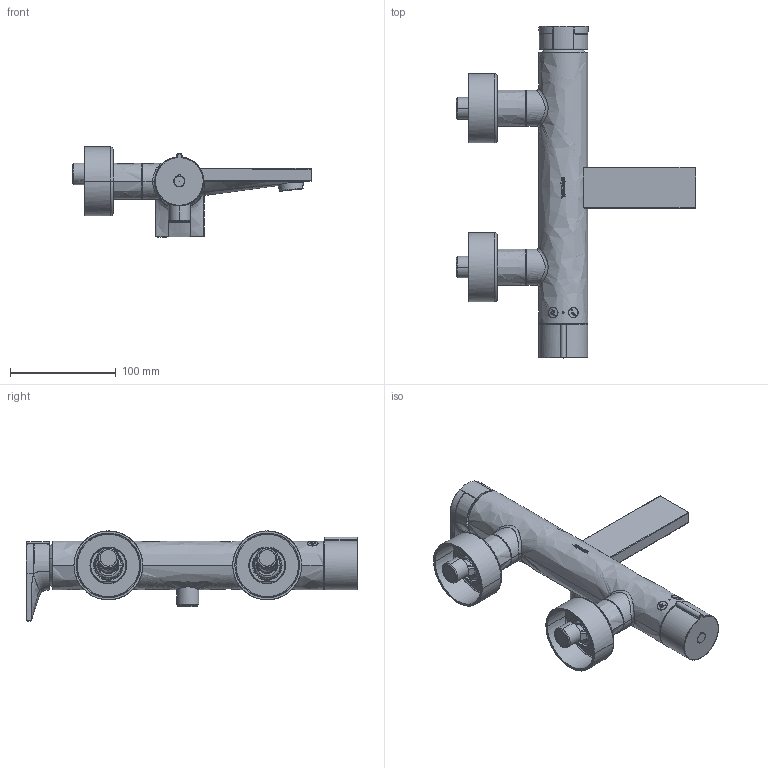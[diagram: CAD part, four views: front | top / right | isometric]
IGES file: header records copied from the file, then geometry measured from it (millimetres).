
Global section: file name: d:\users\matthias.isele\Desktop\planungsdaten_erstellen\Armaturen\Tulum\TU5230000010\3D\TU5230000010.igs; native system: Rhinoceros ( Sep 13 2016 ); preprocessor: Trout Lake IGES 012 Sep 13 2016; date: 220411.073427; units: millimetre
Bounding box: 226 x 313.51 x 85.07 mm (x, y, z)
Surface area: 153143.4 mm2 (no closed solid volume)
Topology: 0 solids, 0 shells, 1107 faces, 6979 edges, 6954 vertices
Faces by surface type: bspline 1107
